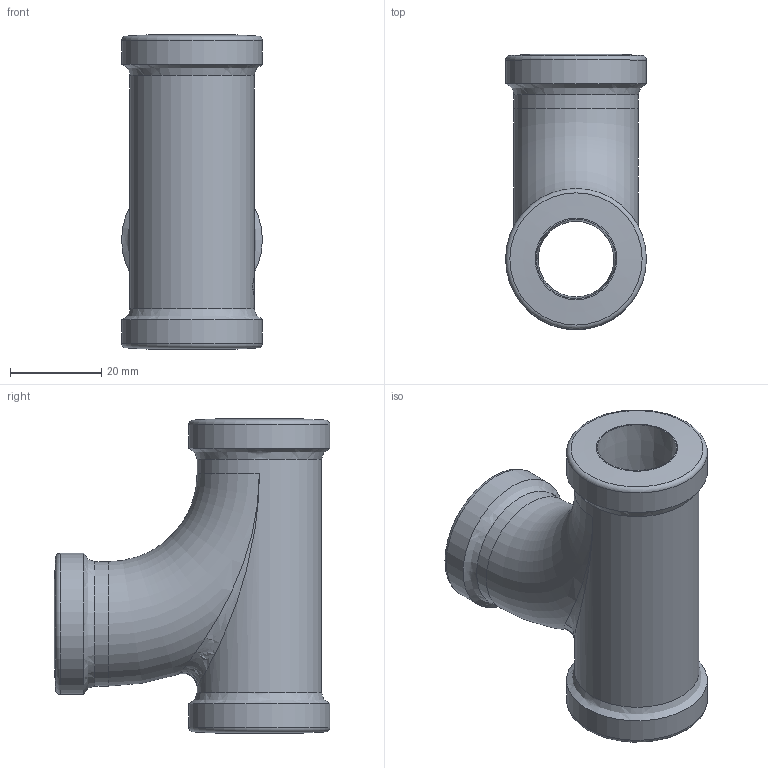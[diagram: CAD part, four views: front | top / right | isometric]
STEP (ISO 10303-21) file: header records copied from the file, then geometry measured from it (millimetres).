
FILE_DESCRIPTION((''),'2;1');
FILE_NAME('P:\Fastrack\53909_CRANE\Crane\Fig.199 Pitcher Tee\New 0.50 inch\199-0.50.stp','2009-09-17T10:24:37',('btaylor'),(''),'Autodesk Inventor 2008','Autodesk Inventor 2008','');
FILE_SCHEMA(('AUTOMOTIVE_DESIGN { 1 0 10303 214 1 1 1 1 }'));
Length unit declared in the file: millimetre
Products named in the file (1): 199-0.50
Bounding box: 30.9 x 60.45 x 69 mm (x, y, z)
Volume: 30875.2 mm3; surface area: 16529.9 mm2
Topology: 1 solids, 1 shells, 53 faces, 133 edges, 82 vertices
Faces by surface type: bspline 20, plane 13, cylinder 9, cone 6, torus 5
Full cylindrical faces by diameter (mm): 27.3 x2, 30.9 x3
Entity records: 4687 total; most frequent: CARTESIAN_POINT 3576, ORIENTED_EDGE 210, DIRECTION 204, EDGE_CURVE 105, AXIS2_PLACEMENT_3D 93, EDGE_LOOP 79, VERTEX_POINT 76, FACE_OUTER_BOUND 53
